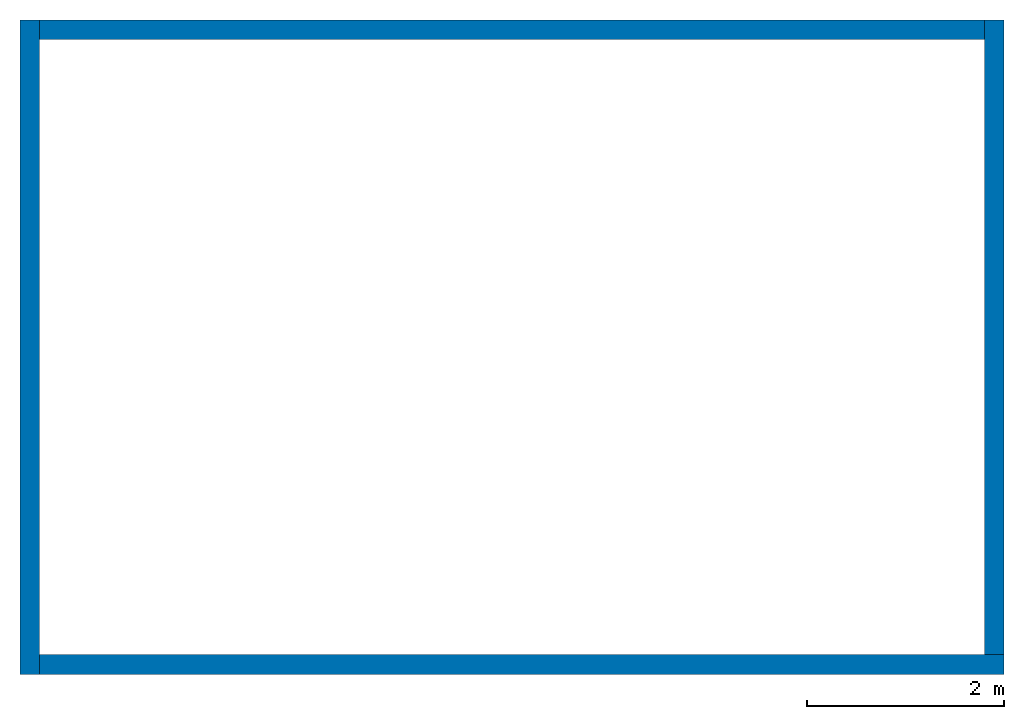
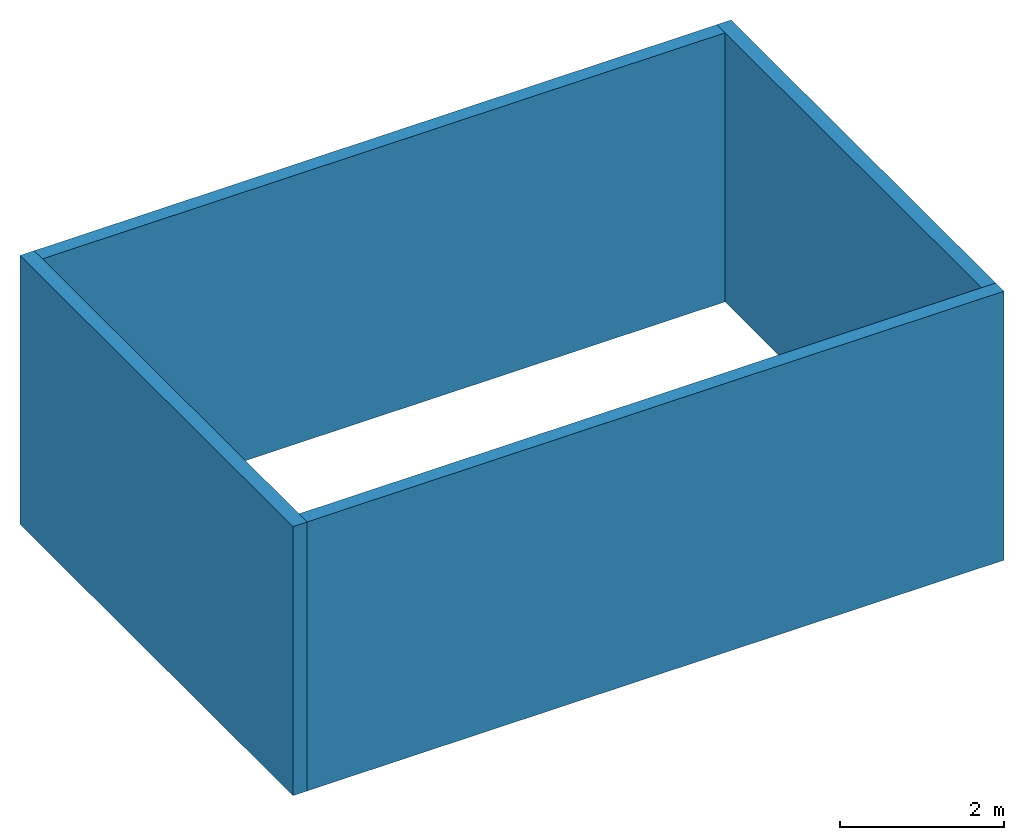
# One storey: 4 walls.
"""IFC2X3 building model written with IfcOpenShell, lengths in millimetres."""

from ifc_helpers import new_model, entity, si_unit, converted_unit, derived_unit, direction, frame, frame_2d, origin, place, context, subcontext, project, spatial, rectangle, extrude, material, layer, layer_set, layer_usage, type_object, element, save


model = new_model("IFC2X3")

# Units and contexts
model_context = context("Model", 3, precision=0.01, world=origin(), true_north=direction((6.12303176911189e-17, 1.0)))
plan_context = context("Plan", 3, precision=0.01, world=origin(), true_north=direction((6.12303176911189e-17, 1.0)))
body_context = subcontext(model_context, "Body", "Model", "MODEL_VIEW")
ifc_project = project(units=[si_unit("LENGTHUNIT", "METRE", prefix="MILLI"), si_unit("AREAUNIT", "SQUARE_METRE"), si_unit("VOLUMEUNIT", "CUBIC_METRE"), converted_unit("PLANEANGLEUNIT", "DEGREE", entity("IfcRatioMeasure", 0.0174532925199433), si_unit("PLANEANGLEUNIT", "RADIAN"), dimensions=[0, 0, 0, 0, 0, 0, 0]), si_unit("MASSUNIT", "GRAM", prefix="KILO"), derived_unit("MASSDENSITYUNIT", [(si_unit("MASSUNIT", "GRAM", prefix="KILO"), 1), (si_unit("LENGTHUNIT", "METRE"), -3)]), derived_unit("MOMENTOFINERTIAUNIT", [(si_unit("LENGTHUNIT", "METRE"), 4)]), si_unit("TIMEUNIT", "SECOND"), si_unit("FREQUENCYUNIT", "HERTZ"), si_unit("THERMODYNAMICTEMPERATUREUNIT", "DEGREE_CELSIUS"), derived_unit("THERMALTRANSMITTANCEUNIT", [(si_unit("MASSUNIT", "GRAM", prefix="KILO"), 1), (si_unit("THERMODYNAMICTEMPERATUREUNIT", "KELVIN"), -1), (si_unit("TIMEUNIT", "SECOND"), -3)]), derived_unit("VOLUMETRICFLOWRATEUNIT", [(si_unit("LENGTHUNIT", "METRE"), 3), (si_unit("TIMEUNIT", "SECOND"), -1)]), si_unit("ELECTRICCURRENTUNIT", "AMPERE"), si_unit("ELECTRICVOLTAGEUNIT", "VOLT"), si_unit("POWERUNIT", "WATT"), si_unit("FORCEUNIT", "NEWTON", prefix="KILO"), si_unit("ILLUMINANCEUNIT", "LUX"), si_unit("LUMINOUSFLUXUNIT", "LUMEN"), si_unit("LUMINOUSINTENSITYUNIT", "CANDELA"), derived_unit("USERDEFINED", [(si_unit("MASSUNIT", "GRAM", prefix="KILO"), -1), (si_unit("LENGTHUNIT", "METRE"), -2), (si_unit("TIMEUNIT", "SECOND"), 3), (si_unit("LUMINOUSFLUXUNIT", "LUMEN"), 1)]), derived_unit("LINEARVELOCITYUNIT", [(si_unit("LENGTHUNIT", "METRE"), 1), (si_unit("TIMEUNIT", "SECOND"), -1)]), si_unit("PRESSUREUNIT", "PASCAL"), derived_unit("USERDEFINED", [(si_unit("LENGTHUNIT", "METRE"), -2), (si_unit("MASSUNIT", "GRAM", prefix="KILO"), 1), (si_unit("TIMEUNIT", "SECOND"), -2)]), derived_unit("LINEARFORCEUNIT", [(si_unit("MASSUNIT", "GRAM", prefix="KILO"), 1), (si_unit("LENGTHUNIT", "METRE"), 1), (si_unit("TIMEUNIT", "SECOND"), -2), (si_unit("LENGTHUNIT", "METRE"), -1)]), derived_unit("PLANARFORCEUNIT", [(si_unit("MASSUNIT", "GRAM", prefix="KILO"), 1), (si_unit("LENGTHUNIT", "METRE"), 1), (si_unit("TIMEUNIT", "SECOND"), -2), (si_unit("LENGTHUNIT", "METRE"), -2)])], contexts=[model_context, plan_context])

# Site, building, storey
site_placement = place(None, origin())
site = spatial("IfcSite", under=ifc_project, at=site_placement, Name="Default", CompositionType="ELEMENT")
building_placement = place(site_placement, origin())
building = spatial("IfcBuilding", under=site, at=building_placement, CompositionType="ELEMENT")
storey_placement = place(building_placement, origin())
storey = spatial("IfcBuildingStorey", under=building, at=storey_placement, Name="Level 1", CompositionType="ELEMENT", Elevation=0.0)

# Walls
ifc_material = material(Name="Default Wall")
ifc_layer = layer(ifc_material, 200.0)
ifc_layer_set = layer_set([ifc_layer], Name="Basic Wall:Wall 1")
ifc_layer_usage_1 = layer_usage(ifc_layer_set, "AXIS2", "NEGATIVE", 100.0)
wall_type = type_object("IfcWallType", Name="Basic Wall:Wall 1", PredefinedType="STANDARD", material=ifc_layer_set)
wall_1_placement = place(storey_placement, frame((6141.31068081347, -9148.34036844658, 0.0), z_axis=(0.0, 0.0, 1.0), x_axis=(0.0, 1.0, 0.0)))
element("IfcWallStandardCase", 1, at=wall_1_placement, inside=storey, type_object=wall_type, material=ifc_layer_usage_1, Name="Basic Wall:Wall 1:9856", ObjectType="Basic Wall:Wall 1", context=body_context, shape_type="SweptSolid", body=[
    extrude(rectangle(XDim=6650.0, YDim=200.0, at=frame_2d((3325.0, 0.0), x_axis=(-1.0, 0.0))), origin(), (0.0, 0.0, 1.0), 4000.0),
])
ifc_layer_usage_2 = layer_usage(ifc_layer_set, "AXIS2", "NEGATIVE", 100.0)
wall_2_placement = place(storey_placement, frame((16041.3106808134, -9048.34036844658, 0.0), z_axis=(0.0, 0.0, 1.0), x_axis=(-1.0, 0.0, 0.0)))
element("IfcWallStandardCase", 2, at=wall_2_placement, inside=storey, type_object=wall_type, material=ifc_layer_usage_2, Name="Name", ObjectType="test", context=body_context, shape_type="SweptSolid", body=[
    extrude(rectangle(XDim=9799.99999999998, YDim=200.0, at=frame_2d((4899.99999999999, 0.0), x_axis=(-1.0, 0.0))), origin(), (0.0, 0.0, 1.0), 4000.0),
])
ifc_layer_usage_3 = layer_usage(ifc_layer_set, "AXIS2", "NEGATIVE", 100.0)
wall_3_placement = place(storey_placement, frame((15941.3106808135, -2498.34036844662, 0.0), z_axis=(0.0, 0.0, 1.0), x_axis=(0.0, -1.0, 0.0)))
element("IfcWallStandardCase", 3, at=wall_3_placement, inside=storey, type_object=wall_type, material=ifc_layer_usage_3, Name="Basic Wall:Wall 1:9894", ObjectType="Basic Wall:Wall 1", context=body_context, shape_type="SweptSolid", body=[
    extrude(rectangle(XDim=6449.99999999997, YDim=199.999999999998, at=frame_2d((3224.99999999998, 0.0), x_axis=(-1.0, 0.0))), origin(), (0.0, 0.0, 1.0), 4000.0),
])
ifc_layer_usage_4 = layer_usage(ifc_layer_set, "AXIS2", "NEGATIVE", 100.0)
wall_4_placement = place(storey_placement, frame((6241.31068081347, -2598.34036844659, 0.0)))
element("IfcWallStandardCase", 4, at=wall_4_placement, inside=storey, type_object=wall_type, material=ifc_layer_usage_4, Name="Basic Wall:Wall 1:9921", ObjectType="Basic Wall:Wall 1", context=body_context, shape_type="SweptSolid", body=[
    extrude(rectangle(XDim=9599.99999999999, YDim=200.0, at=frame_2d((4799.99999999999, 8.5265128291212e-14), x_axis=(-1.0, 0.0))), origin(), (0.0, 0.0, 1.0), 4000.0),
])

save(model, "model.ifc")
